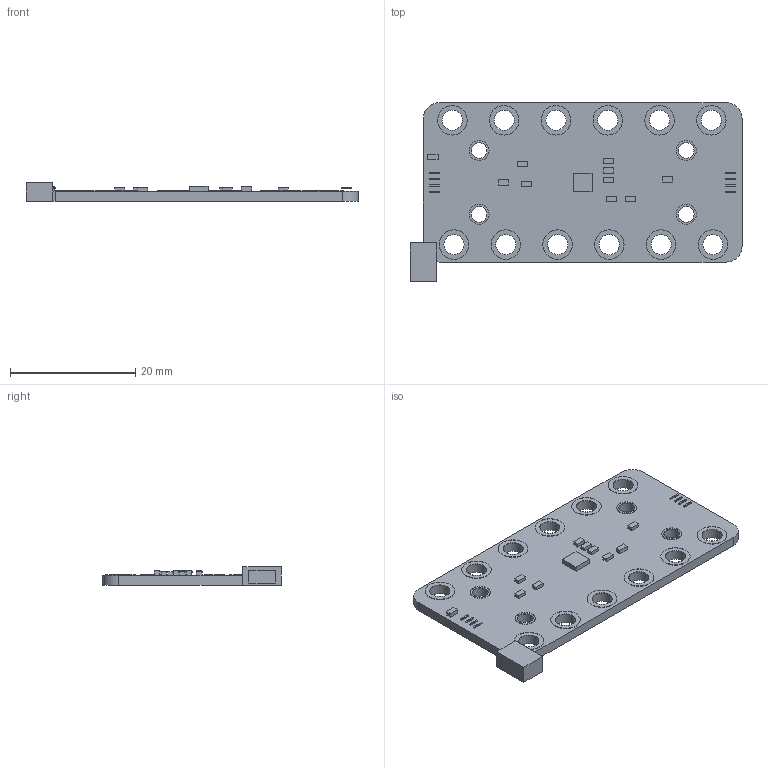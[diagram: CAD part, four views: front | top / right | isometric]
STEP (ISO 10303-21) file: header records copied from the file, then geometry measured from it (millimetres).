
FILE_DESCRIPTION(('FreeCAD Model'),'2;1');
FILE_NAME('Open CASCADE Shape Model','2026-11-14T08:22:00',('Author'),( ''),'Open CASCADE STEP processor 7.8','FreeCAD','Unknown');
FILE_SCHEMA(('AUTOMOTIVE_DESIGN { 1 0 10303 214 1 1 1 1 }'));
Length unit declared in the file: millimetre
Products named in the file (39): Board; PCB; Plated ring; Plated ring001; Plated ring002; Plated ring003; Plated ring004; Plated ring005; Plated ring006; Plated ring007; Plated ring008; Plated ring009; Plated ring010; Plated ring011; Plated ring012; Plated ring013; Plated ring014; Plated ring015; JST-SH 4-pin socket; JST-SH contact; JST-SH contact001; JST-SH contact002; JST-SH contact003; JST-SH 4-pin socket001; JST-SH contact004; JST-SH contact005; JST-SH contact006; JST-SH contact007; MPR121; Power LED; Touch IRQ LED; Passive; Passive001; Passive002; Passive003; Passive004; Passive005; Passive006; Passive007
Assembly tree (38 placements, depth 2):
  Board
    PCB
    Plated ring
    Plated ring001
    Plated ring002
    Plated ring003
    Plated ring004
    Plated ring005
    Plated ring006
    Plated ring007
    Plated ring008
    Plated ring009
    Plated ring010
    Plated ring011
    Plated ring012
    Plated ring013
    Plated ring014
    Plated ring015
    JST-SH 4-pin socket
    JST-SH contact
    JST-SH contact001
    JST-SH contact002
    JST-SH contact003
    JST-SH 4-pin socket001
    JST-SH contact004
    JST-SH contact005
    JST-SH contact006
    JST-SH contact007
    MPR121
    Power LED
    Touch IRQ LED
    Passive
    Passive001
    Passive002
    Passive003
    Passive004
    Passive005
    Passive006
    Passive007
Bounding box: 52.92 x 28.45 x 2.95 mm (x, y, z)
Volume: 2016.3 mm3; surface area: 3464.4 mm2
Topology: 38 solids, 38 shells, 226 faces, 444 edges, 296 vertices
Faces by surface type: plane 174, cylinder 52
Full cylindrical faces by diameter (mm): 2.5 x8, 3.2 x28, 4.7 x12
Entity records: 6520 total; most frequent: DIRECTION 1078, CARTESIAN_POINT 1005, ORIENTED_EDGE 888, EDGE_CURVE 444, AXIS2_PLACEMENT_3D 369, LINE 340, VECTOR 340, VERTEX_POINT 296
